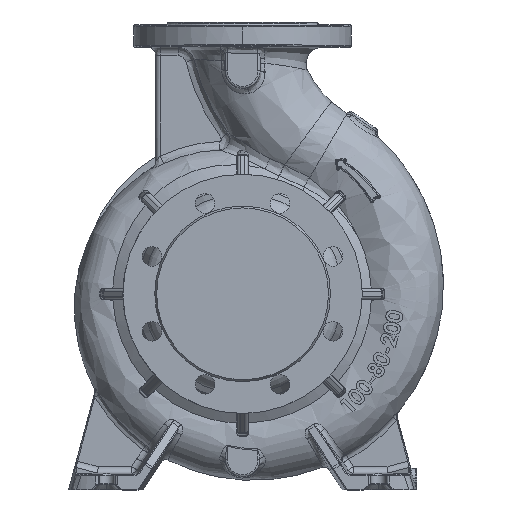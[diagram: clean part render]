
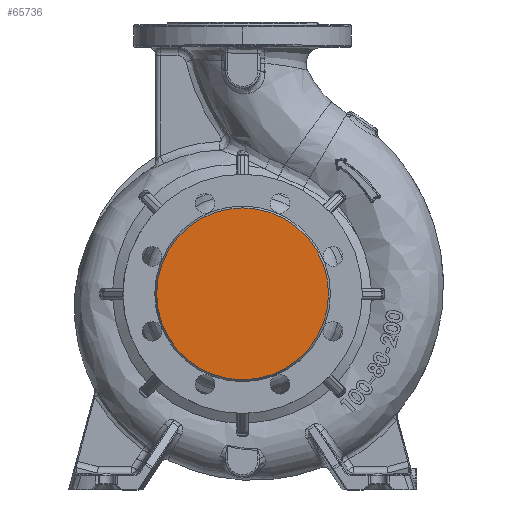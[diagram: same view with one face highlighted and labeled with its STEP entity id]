
A CAD part, top view. The second image highlights one B-rep face of the part: STEP entity #65736.
In plain terms, the highlighted planar face has unit normal (0, 0, 1).
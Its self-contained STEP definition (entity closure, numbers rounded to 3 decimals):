
#2766 = EDGE_CURVE ( 'NONE', #12379, #28724, #33398, .T. ) ;
#4907 = DIRECTION ( 'NONE',  ( 0., 0., -1. ) ) ;
#5762 = FACE_OUTER_BOUND ( 'NONE', #47829, .T. ) ;
#12379 = VERTEX_POINT ( 'NONE', #59383 ) ;
#18425 = DIRECTION ( 'NONE',  ( -1., 0., 0. ) ) ;
#20322 = AXIS2_PLACEMENT_3D ( 'NONE', #83041, #4907, #21626 ) ;
#21626 = DIRECTION ( 'NONE',  ( -1., 0., 0. ) ) ;
#28724 = VERTEX_POINT ( 'NONE', #76317 ) ;
#33398 = CIRCLE ( 'NONE', #20322, 79. ) ;
#39917 = ORIENTED_EDGE ( 'NONE', *, *, #2766, .F. ) ;
#43614 = AXIS2_PLACEMENT_3D ( 'NONE', #75970, #90026, #62613 ) ;
#47829 = EDGE_LOOP ( 'NONE', ( #39917, #89826 ) ) ;
#54365 = AXIS2_PLACEMENT_3D ( 'NONE', #67379, #67073, #18425 ) ;
#59383 = CARTESIAN_POINT ( 'NONE',  ( -79., 0., 125. ) ) ;
#62281 = PLANE ( 'NONE',  #43614 ) ;
#62613 = DIRECTION ( 'NONE',  ( -1., 0., 0. ) ) ;
#63882 = CIRCLE ( 'NONE', #54365, 79. ) ;
#65736 = ADVANCED_FACE ( 'NONE', ( #5762 ), #62281, .F. ) ;
#67073 = DIRECTION ( 'NONE',  ( 0., 0., -1. ) ) ;
#67379 = CARTESIAN_POINT ( 'NONE',  ( 0., 0., 125. ) ) ;
#75970 = CARTESIAN_POINT ( 'NONE',  ( 0., 0., 125. ) ) ;
#76317 = CARTESIAN_POINT ( 'NONE',  ( 79., 0., 125. ) ) ;
#82830 = EDGE_CURVE ( 'NONE', #28724, #12379, #63882, .T. ) ;
#83041 = CARTESIAN_POINT ( 'NONE',  ( 0., 0., 125. ) ) ;
#89826 = ORIENTED_EDGE ( 'NONE', *, *, #82830, .F. ) ;
#90026 = DIRECTION ( 'NONE',  ( 0., 0., -1. ) ) ;
